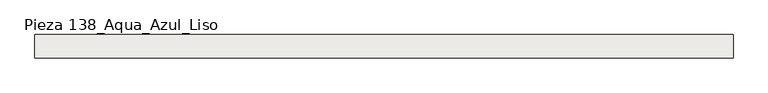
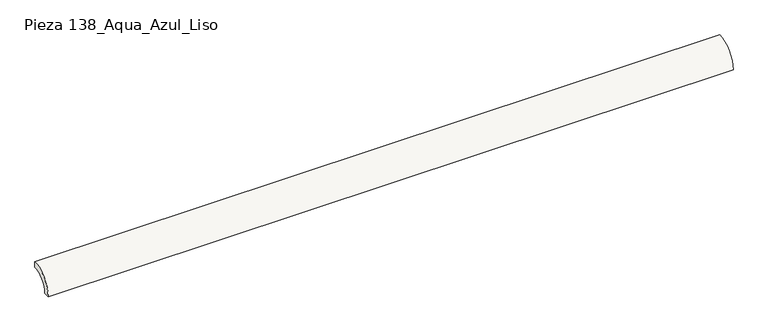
"""IFC4 building model written with IfcOpenShell, lengths in millimetres: slab geometry, ROSA GRES_138 : Pieza 138_Aqua_Azul_Liso."""

from ifc_helpers import new_model, si_unit, point, frame, frame_2d, origin, origin_2d, place, context, project, spatial, polyline, circle_curve, trimmed, segment, composite_curve, outline, extrude, source, transform, mapped, element, save


def pieza_138_aqua_azul_liso_4e60f0d0(model_context):
    return source(origin(), model_context, "Body", "SweptSolid", [
        extrude(outline(composite_curve([segment(polyline([(0.0, 40.0), (0.0, 30.0265886)]), True, "CONTINUOUS"), segment(trimmed(circle_curve(frame_2d((-0.0044453, 0.0044453)), 30.0221435), [point((0.0, 30.0265886))], [point((-30.0265886, 0.0))], True, "CARTESIAN"), True, "CONTINUOUS"), segment(polyline([(-30.0265886, 0.0), (-40.0, 0.0)]), True, "CONTINUOUS"), segment(trimmed(circle_curve(origin_2d(), 40.0), [point((-40.0, 0.0))], [point((0.0, 40.0))], False, "CARTESIAN"), True, "CONTINUOUS")], self_intersect=False)), frame((0.0, 0.0, 0.0), z_axis=(1.0, 0.0, 0.0), x_axis=(0.0, 1.0, 0.0)), (0.0, 0.0, 1.0), 1187.6695589),
    ])


if __name__ == "__main__":
    model = new_model("IFC4")
    model_context = context("Model", 3, world=origin())
    ifc_project = project(units=[si_unit("LENGTHUNIT", "METRE", prefix="MILLI")], contexts=[model_context])
    site = spatial("IfcSite", under=ifc_project)
    building = spatial("IfcBuilding", under=site)
    placement = place(None, origin())
    pieza_138_aqua_azul_liso_shape = pieza_138_aqua_azul_liso_4e60f0d0(model_context)
    element("IfcSlab", 1, ObjectType="ROSA GRES_138 : Pieza 138_Aqua_Azul_Liso", at=placement, inside=building, context=model_context, shape_type="MappedRepresentation", body=[
        mapped(pieza_138_aqua_azul_liso_shape, transform((0.0, 0.0, 0.0), x_axis=(1.0, 0.0, 0.0), y_axis=(0.0, 1.0, 0.0), z_axis=(0.0, 0.0, 1.0))),
    ])
    save(model, "model.ifc")
